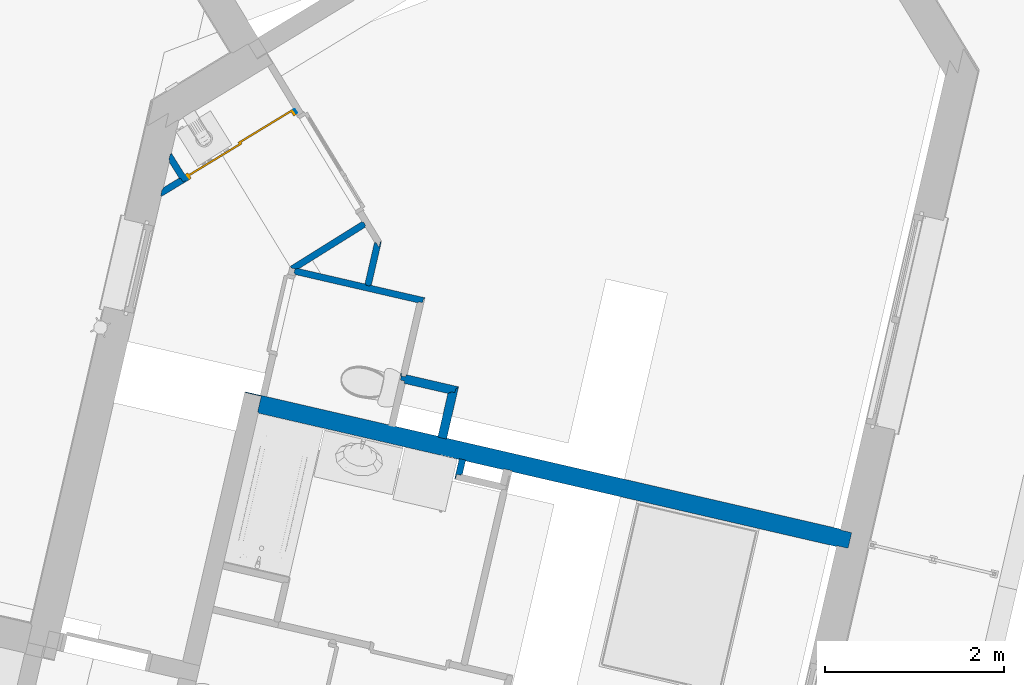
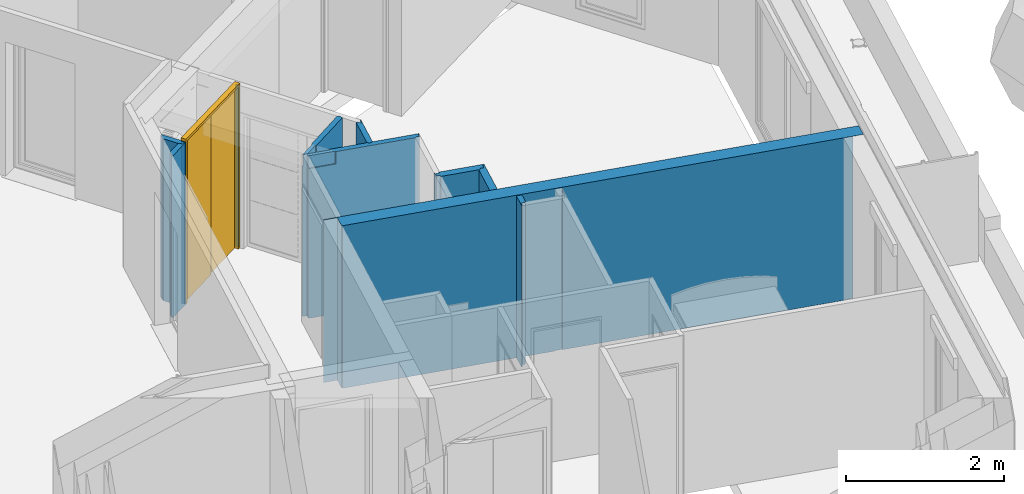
# One storey, part 61 of 119: 10 walls, 1 door, 1 opening.
"""IFC2X3 building model written with IfcOpenShell, lengths in metres."""

from ifc_helpers import new_model, entity, si_unit, converted_unit, derived_unit, money_unit, direction, frame, origin_with_axes, place, context, subcontext, project, spatial, faceted_brep, material, material_list, type_object, element, fill, save


model = new_model("IFC2X3")

# Units and contexts
model_context = context("Model", 3, precision=1e-05, world=origin_with_axes(), true_north=direction((0.0, 1.0)))
body_context = subcontext(model_context, "Body", "Model", "MODEL_VIEW")
ifc_project = project(units=[si_unit("LENGTHUNIT", "METRE"), si_unit("AREAUNIT", "SQUARE_METRE"), si_unit("VOLUMEUNIT", "CUBIC_METRE"), converted_unit("PLANEANGLEUNIT", "DEGREE", entity("IfcPlaneAngleMeasure", 0.0174532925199), si_unit("PLANEANGLEUNIT", "RADIAN"), dimensions=[0, 0, 0, 0, 0, 0, 0]), si_unit("SOLIDANGLEUNIT", "STERADIAN"), money_unit("EUR"), converted_unit("TIMEUNIT", "Year", entity("IfcTimeMeasure", 31556926.0), si_unit("TIMEUNIT", "SECOND"), dimensions=[0, 0, 1, 0, 0, 0, 0]), si_unit("MASSUNIT", "GRAM", prefix="KILO"), si_unit("THERMODYNAMICTEMPERATUREUNIT", "DEGREE_CELSIUS"), si_unit("LUMINOUSINTENSITYUNIT", "LUMEN"), si_unit("ENERGYUNIT", "JOULE", prefix="MEGA"), derived_unit("THERMALCONDUCTANCEUNIT", [(si_unit("POWERUNIT", "WATT"), 1), (si_unit("LENGTHUNIT", "METRE"), -1), (si_unit("THERMODYNAMICTEMPERATUREUNIT", "KELVIN"), -1)]), derived_unit("SPECIFICHEATCAPACITYUNIT", [(si_unit("ENERGYUNIT", "JOULE"), 1), (si_unit("MASSUNIT", "GRAM", prefix="KILO"), -1), (si_unit("THERMODYNAMICTEMPERATUREUNIT", "KELVIN"), -1)]), derived_unit("MASSDENSITYUNIT", [(si_unit("MASSUNIT", "GRAM", prefix="KILO"), 1), (si_unit("VOLUMEUNIT", "CUBIC_METRE"), -1)])], contexts=[model_context])

# Site, building, storey
site_placement = place(None, origin_with_axes())
site = spatial("IfcSite", under=ifc_project, at=site_placement, Name="Site", CompositionType="ELEMENT")
building_placement = place(site_placement, origin_with_axes())
building = spatial("IfcBuilding", under=site, at=building_placement, Name="Bâtiment", CompositionType="ELEMENT")
storey_placement = place(building_placement, origin_with_axes())
storey = spatial("IfcBuildingStorey", under=building, at=storey_placement, Name="Rez-de-chaussée", CompositionType="ELEMENT", Elevation=0.0)

# Wall, opening, door
ifc_material_1 = material(Name="Isolation - Laine de roche")
wall_type_1 = type_object("IfcWallType", Name="3 - Cloison 72mm Placostil 74", PredefinedType="USERDEFINED")
wall_1_placement = place(storey_placement, frame((-5.16748450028, 17.5291965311, 0.0), z_axis=(0.0, 0.0, 1.0), x_axis=(-0.854539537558, -0.519386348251, 0.0)))
wall_1 = element("IfcWall", 1, at=wall_1_placement, inside=storey, type_object=wall_type_1, material=ifc_material_1, Name="Cloison Placostil 72/48", ObjectType="PARTITIONING", context=body_context, shape_type="Brep", body=[
    faceted_brep([(1.49178582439, -0.013, 0.0), (1.49178582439, -0.013, 2.5), (1.50402737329, -0.013, 2.5), (1.50402737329, -0.013, 0.0), (1.49178582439, -0.061, 2.5), (1.49178582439, -0.061, 0.0), (1.50462498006, -0.061, 2.5), (1.50462498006, -0.061, 0.0)], [[[0, 1, 2, 3]], [[4, 1, 0, 5]], [[1, 4, 6, 2]], [[3, 2, 6, 7]], [[5, 0, 3, 7]], [[4, 5, 7, 6]]]),
    faceted_brep([(0.0740000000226, -0.061, 2.5), (0.0740000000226, -0.013, 2.5), (0.061000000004, -0.013, 2.5), (0.0610000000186, -0.061, 2.5), (0.0740000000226, -0.013, 0.0), (0.0740000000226, -0.061, 0.0), (0.061000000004, -0.013, 0.0), (0.0610000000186, -0.061, 0.0)], [[[0, 1, 2, 3]], [[4, 1, 0, 5]], [[1, 4, 6, 2]], [[3, 2, 6, 7]], [[5, 0, 3, 7]], [[4, 5, 7, 6]]]),
])
opening_placement = place(wall_1_placement, frame((0.782892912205, 0.0, 0.0), z_axis=(0.0, 0.0, 1.0), x_axis=(1.0, 0.0, 0.0)))
opening = element("IfcOpeningElement", 2, at=opening_placement, cuts=wall_1, Name="Por-002", context=body_context, shape_type="Brep", body=[
    faceted_brep([(-0.708892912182, 0.074, 0.0), (0.708892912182, 0.074, 0.0), (0.708892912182, -0.074, 0.0), (-0.708892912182, -0.074, 0.0), (-0.708892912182, 0.074, 2.54), (0.708892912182, 0.074, 2.54), (0.708892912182, -0.074, 2.54), (-0.708892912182, -0.074, 2.54)], [[[0, 1, 2, 3]], [[0, 4, 5, 1]], [[1, 5, 6, 2]], [[3, 2, 6, 7]], [[4, 0, 3, 7]], [[5, 4, 7, 6]]]),
])
door_style = type_object("IfcDoorStyle", Name="Porte int générique 2019", ConstructionType="NOTDEFINED", OperationType="USERDEFINED", ParameterTakesPrecedence=False, Sizeable=False)
door_placement = place(opening_placement, frame((0.668892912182, 0.0, 0.0), z_axis=(0.0, 0.0, 1.0), x_axis=(-1.0, 0.0, 0.0)))
door = element("IfcDoor", 3, at=door_placement, inside=storey, type_object=door_style, Name="Por-002", ObjectType="DOOR", OverallHeight=2.5, OverallWidth=1.33779, context=body_context, shape_type="Brep", body=[
    faceted_brep([(1.37778582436, 0.074, 0.0), (1.33778582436, 0.074, 0.0), (1.33778582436, 0.074, 2.5), (0.0, 0.074, 2.5), (0.0, 0.074, 0.0), (-0.04, 0.074, 0.0), (-0.04, 0.074, 2.54), (1.37778582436, 0.074, 2.54), (1.37778582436, 0.0, 0.0), (1.33778582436, 0.0, 0.0), (1.33778582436, 0.0, 2.5), (0.0, 0.0, 2.5), (0.0, 0.0, 0.0), (-0.04, 0.0, 0.0), (-0.04, 0.0, 2.54), (1.37778582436, 0.0, 2.54)], [[[0, 1, 2, 3, 4, 5, 6, 7]], [[0, 8, 9, 1]], [[1, 9, 10, 2]], [[2, 10, 11, 3]], [[3, 11, 12, 4]], [[5, 4, 12, 13]], [[14, 6, 5, 13]], [[15, 7, 6, 14]], [[8, 0, 7, 15]], [[9, 8, 15, 14, 13, 12, 11, 10]]]),
    faceted_brep([(1.33778582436, 0.074, 0.0), (1.33778582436, 0.054, 0.0), (0.653892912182, 0.054, 0.0), (0.653892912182, 0.074, 0.0), (1.33778582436, 0.074, 2.5), (1.33778582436, 0.054, 2.5), (0.653892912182, 0.054, 2.5), (0.653892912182, 0.074, 2.5)], [[[0, 1, 2, 3]], [[4, 5, 1, 0]], [[1, 5, 6, 2]], [[3, 2, 6, 7]], [[0, 3, 7, 4]], [[7, 6, 5, 4]]]),
    faceted_brep([(0.683892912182, 0.054, 0.0), (0.683892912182, 0.034, 0.0), (0.0, 0.034, 0.0), (0.0, 0.054, 0.0), (0.683892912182, 0.054, 2.5), (0.683892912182, 0.034, 2.5), (0.0, 0.034, 2.5), (0.0, 0.054, 2.5)], [[[0, 1, 2, 3]], [[4, 5, 1, 0]], [[1, 5, 6, 2]], [[3, 2, 6, 7]], [[0, 3, 7, 4]], [[7, 6, 5, 4]]]),
])
fill(opening, door)

# Walls
ifc_material_2 = material(Name="Finition int - Plaque de plâtre")
ifc_material_list_1 = material_list([ifc_material_2, ifc_material_1, ifc_material_2])
wall_2_placement = place(storey_placement, frame((-5.30738546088, 15.7908144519, 0.0), z_axis=(0.0, 0.0, 1.0), x_axis=(0.974387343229, -0.224876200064, 0.0)))
element("IfcWall", 4, at=wall_2_placement, inside=storey, type_object=wall_type_1, material=ifc_material_list_1, Name="Cloison Placostil 72/48", ObjectType="PARTITIONING", context=body_context, shape_type="Brep", body=[
    faceted_brep([(0.012999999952, 0.0, 2.31), (0.0183847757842, 0.0, 2.31), (0.0183847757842, 0.0, 0.0), (0.012999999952, 0.0, 0.0), (0.0129999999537, -0.00538477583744, 2.31), (0.0129999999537, -0.00538477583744, 0.0)], [[[0, 1, 2, 3]], [[4, 1, 0]], [[1, 4, 5, 2]], [[3, 2, 5]], [[4, 0, 3, 5]]]),
    faceted_brep([(0.354379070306, 0.0, 2.5), (0.367455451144, -0.013, 2.5), (0.872738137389, -0.013, 2.5), (0.872738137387, 0.0, 2.5), (0.367455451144, -0.013, 2.31), (0.354379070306, 0.0, 2.31), (0.0732670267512, -0.013, 2.31), (0.0732670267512, -0.013, 0.0), (0.872738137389, -0.013, 0.0), (0.872738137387, 0.0, 0.0), (0.0862670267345, 0.0, 0.0), (0.0862670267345, 0.0, 2.31)], [[[0, 1, 2, 3]], [[4, 1, 0, 5]], [[4, 6, 7, 8, 2, 1]], [[9, 3, 2, 8]], [[5, 0, 3, 9, 10, 11]], [[6, 4, 5, 11]], [[6, 11, 10, 7]], [[8, 7, 10, 9]]]),
    faceted_brep([(1.54800000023, -0.013, 2.5), (1.54800000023, 0.0, 2.5), (0.920738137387, 0.0, 2.5), (0.920738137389, -0.013, 2.5), (1.54800000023, -0.013, 0.0), (1.54800000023, 0.0, 0.0), (0.920738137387, 0.0, 0.0), (0.920738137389, -0.013, 0.0)], [[[0, 1, 2, 3]], [[1, 0, 4, 5]], [[1, 5, 6, 2]], [[7, 3, 2, 6]], [[4, 0, 3, 7]], [[5, 4, 7, 6]]]),
    faceted_brep([(0.0609999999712, -0.061, 2.5), (1.53500000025, -0.061, 2.5), (1.53500000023, -0.013, 2.5), (0.0609999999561, -0.013, 2.5), (0.0609999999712, -0.061, 0.0), (1.53500000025, -0.061, 0.0), (1.53500000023, -0.013, 0.0), (0.0609999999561, -0.013, 0.0)], [[[0, 1, 2, 3]], [[4, 5, 1, 0]], [[6, 2, 1, 5]], [[3, 2, 6, 7]], [[7, 4, 0, 3]], [[7, 6, 5, 4]]]),
    faceted_brep([(0.415737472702, -0.061, 2.5), (0.428813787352, -0.0739999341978, 2.5), (1.48700000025, -0.074, 2.5), (1.48700000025, -0.061, 2.5), (0.428813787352, -0.0739999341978, 2.31), (0.415737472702, -0.061, 2.31), (0.0740000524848, -0.0739999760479, 2.31), (0.0739999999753, -0.074, 0.0), (1.48700000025, -0.074, 0.0), (1.48700000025, -0.061, 0.0), (0.0739999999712, -0.061, 0.0), (0.0739999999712, -0.061, 2.31)], [[[0, 1, 2, 3]], [[4, 1, 0, 5]], [[4, 6, 7, 8, 2, 1]], [[3, 2, 8, 9]], [[5, 0, 3, 9, 10, 11]], [[6, 4, 5, 11]], [[6, 11, 10, 7]], [[9, 8, 7, 10]]]),
])
wall_3_placement = place(storey_placement, frame((-4.44027920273, 16.3327352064, 0.0), z_axis=(0.0, 0.0, 1.0), x_axis=(-0.848007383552, -0.529984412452, 0.0)))
element("IfcWall", 5, at=wall_3_placement, inside=storey, type_object=wall_type_1, material=ifc_material_list_1, Name="Cloison Placostil 72/48", ObjectType="PARTITIONING", context=body_context, shape_type="Brep", body=[
    faceted_brep([(0.77249353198, 0.061, 2.5), (0.772455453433, 0.074, 2.5), (0.0749270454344, 0.074, 2.5), (0.0747651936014, 0.061, 2.5), (0.772455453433, 0.074, 2.31), (0.77249353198, 0.061, 2.31), (0.948522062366, 0.074, 2.31), (0.948522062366, 0.074, 0.0), (0.0749270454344, 0.074, 0.0), (0.0747651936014, 0.061, 0.0), (0.96152206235, 0.061, 0.0), (0.96152206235, 0.061, 2.31)], [[[0, 1, 2, 3]], [[4, 1, 0, 5]], [[4, 6, 7, 8, 2, 1]], [[8, 9, 3, 2]], [[5, 0, 3, 9, 10, 11]], [[6, 4, 5, 11]], [[6, 11, 10, 7]], [[8, 7, 10, 9]]]),
    faceted_brep([(1.0171372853, 0.013, 2.5), (1.02252206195, 0.0183847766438, 2.5), (0.988580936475, 0.0523259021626, 2.5), (0.979906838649, 0.061, 2.5), (0.0617641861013, 0.061, 2.5), (0.0611665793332, 0.013, 2.5), (1.02252206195, 0.0183847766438, 0.0), (1.0171372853, 0.013, 0.0), (0.988580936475, 0.0523259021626, 0.0), (0.979906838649, 0.061, 0.0), (0.0617641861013, 0.061, 0.0), (0.0611665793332, 0.013, 0.0)], [[[0, 1, 2, 3, 4, 5]], [[6, 1, 0, 7]], [[8, 2, 1, 6]], [[8, 9, 3, 2]], [[4, 3, 9, 10]], [[10, 11, 5, 4]], [[11, 7, 0, 5]], [[8, 6, 7, 11, 10, 9]]]),
    faceted_brep([(0.0740057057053, 2.37620767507e-09, 2.31), (0.0740095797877, 0.000311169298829, 2.31), (0.0740095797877, 0.000311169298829, 2.5), (0.0741675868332, 0.013, 2.5), (0.0741675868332, 0.013, 0.0), (0.0740057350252, 2.01116989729e-09, 0.0), (1.02128199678, 3.30093286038e-10, 2.31), (1.02129651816, 0.00122554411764, 2.31), (1.01332967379, 0.00919238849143, 2.31), (1.00952206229, 0.013, 2.31), (0.77263412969, 0.013, 2.31), (0.772663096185, 0.00311085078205, 2.31), (0.772663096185, 0.00311085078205, 2.5), (0.77263412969, 0.013, 2.5), (1.00952206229, 0.013, 0.0), (1.01332967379, 0.00919238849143, 0.0), (1.02252206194, 3.30093286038e-10, 0.0), (1.02252206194, 3.30093286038e-10, 2.5), (1.02128199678, 3.32292415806e-10, 2.5), (1.02129651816, 0.00122554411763, 2.5)], [[[0, 1, 2, 3, 4, 5]], [[1, 0, 6, 7, 8, 9, 10, 11]], [[12, 2, 1, 11]], [[12, 13, 3, 2]], [[10, 9, 14, 4, 3, 13]], [[14, 15, 16, 5, 4]], [[6, 0, 5, 16, 17, 18]], [[18, 19, 7, 6]], [[7, 19, 17, 16, 15, 8]], [[9, 8, 15, 14]], [[10, 13, 12, 11]], [[19, 18, 17]]]),
])
wall_4_placement = place(storey_placement, frame((-4.28354753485, 16.0748666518, 0.0), z_axis=(0.0, 0.0, 1.0), x_axis=(-0.224876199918, -0.974387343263, 0.0)))
element("IfcWall", 6, at=wall_4_placement, inside=storey, type_object=wall_type_1, material=ifc_material_list_1, Name="Cloison Placostil 72/48", ObjectType="PARTITIONING", context=body_context, shape_type="Brep", body=[
    faceted_brep([(0.50701365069, -0.013, 2.5), (0.507013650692, 0.0, 2.5), (0.0186179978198, 0.0, 2.5), (0.005290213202, -0.013, 2.5), (0.50701365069, -0.013, 0.0), (0.507013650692, 0.0, 0.0), (0.0186179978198, 0.0, 0.0), (0.005290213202, -0.013, 0.0)], [[[0, 1, 2, 3]], [[1, 0, 4, 5]], [[1, 5, 6, 2]], [[7, 3, 2, 6]], [[4, 0, 3, 7]], [[5, 4, 7, 6]]]),
    faceted_brep([(0.520013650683, -0.061, 2.5), (0.52001365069, -0.013, 2.5), (0.0740335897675, -0.013, 2.5), (0.0248233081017, -0.061, 2.5), (0.520013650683, -0.061, 0.0), (0.52001365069, -0.013, 0.0), (0.0740335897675, -0.013, 0.0), (0.0248233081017, -0.061, 0.0)], [[[0, 1, 2, 3]], [[1, 0, 4, 5]], [[1, 5, 6, 2]], [[7, 3, 2, 6]], [[4, 0, 3, 7]], [[5, 4, 7, 6]]]),
    faceted_brep([(0.507013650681, -0.074, 2.5), (0.507013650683, -0.061, 2.5), (0.0434413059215, -0.061, 2.5), (0.0301135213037, -0.074, 2.5), (0.507013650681, -0.074, 0.0), (0.507013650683, -0.061, 0.0), (0.0434413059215, -0.061, 0.0), (0.0301135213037, -0.074, 0.0)], [[[0, 1, 2, 3]], [[1, 0, 4, 5]], [[1, 5, 6, 2]], [[7, 3, 2, 6]], [[4, 0, 3, 7]], [[5, 4, 7, 6]]]),
])
ifc_material_3 = material(Name="Finition int - Enduit plâtre")
ifc_material_4 = material(Name="Béton")
ifc_material_list_2 = material_list([ifc_material_3, ifc_material_4, ifc_material_3])
wall_type_2 = type_object("IfcWallType", Name="2 - Murs Béton 18 + Enduit 2 Faces 200", PredefinedType="USERDEFINED")
wall_5_placement = place(storey_placement, frame((-5.85538700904, 14.1992836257, 0.0), z_axis=(0.0, 0.0, 1.0), x_axis=(0.974387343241, -0.224876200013, 0.0)))
element("IfcWall", 7, at=wall_5_placement, inside=storey, type_object=wall_type_2, material=ifc_material_list_2, Name="M_Ext-008", ObjectType="SOLIDWALL", context=body_context, shape_type="Brep", body=[
    faceted_brep([(0.01, 0.2, 2.51), (7.08870104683, 0.2, 2.51), (7.08870104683, 0.2, 2.50955), (6.95670106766, 0.2, 2.50955001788), (6.83670103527, 0.2, 2.50955001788), (6.82670106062, 0.2, 2.50955001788), (6.82670106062, 0.2, 0.207793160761), (6.82670106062, 0.2, 0.176532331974), (6.82670106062, 0.2, 0.169414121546), (6.82670106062, 0.2, 0.160000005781), (6.82670106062, 0.2, 0.133633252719), (6.82670106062, 0.2, 0.0), (0.01, 0.2, 0.0), (7.08870104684, 0.19, 2.51), (0.01, 0.19, 2.51), (7.08870104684, 0.19, 2.50955), (6.95670106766, 0.19, 2.50955001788), (6.83670103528, 0.19, 2.50955001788), (6.82670106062, 0.19, 2.50955001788), (6.82670106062, 0.19, 0.207793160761), (6.82670106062, 0.19, 0.176532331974), (6.82670106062, 0.19, 0.169414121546), (6.82670106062, 0.19, 0.160000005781), (6.82670106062, 0.19, 0.133633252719), (6.82670106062, 0.19, 0.0), (0.01, 0.19, 0.0)], [[[0, 1, 2, 3, 4, 5, 6, 7, 8, 9, 10, 11, 12]], [[13, 1, 0, 14]], [[1, 13, 15, 2]], [[3, 2, 15, 16]], [[4, 3, 16, 17]], [[4, 17, 18, 5]], [[5, 18, 19, 6]], [[19, 20, 7, 6]], [[20, 21, 8, 7]], [[8, 21, 22, 9]], [[9, 22, 23, 10]], [[11, 10, 23, 24]], [[24, 25, 12, 11]], [[14, 0, 12, 25]], [[13, 14, 25, 24, 23, 22, 21, 20, 19, 18, 17, 16, 15]]]),
    faceted_brep([(0.19, 0.19, 2.51), (7.08870104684, 0.19, 2.51), (7.08870104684, 0.19, 2.50955), (6.95670105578, 0.19, 2.50955001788), (6.95670105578, 0.19, 0.207793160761), (6.95670105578, 0.19, 0.176532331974), (6.95670105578, 0.19, 0.169414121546), (6.95670105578, 0.19, 0.160000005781), (6.95670105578, 0.19, 0.133633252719), (6.95670105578, 0.19, 0.0), (0.19, 0.19, 0.0), (7.08870104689, 0.01, 2.51), (0.19, 0.01, 2.51), (7.08870104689, 0.01, 2.50955), (6.95670105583, 0.01, 2.50955001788), (6.95670105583, 0.01, 0.207793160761), (6.95670105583, 0.01, 0.176532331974), (6.95670105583, 0.01, 0.169414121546), (6.95670105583, 0.01, 0.160000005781), (6.95670105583, 0.01, 0.133633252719), (6.95670105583, 0.01, 0.0), (0.19, 0.01, 0.0)], [[[0, 1, 2, 3, 4, 5, 6, 7, 8, 9, 10]], [[11, 1, 0, 12]], [[1, 11, 13, 2]], [[3, 2, 13, 14]], [[3, 14, 15, 4]], [[15, 16, 5, 4]], [[6, 5, 16, 17]], [[6, 17, 18, 7]], [[19, 8, 7, 18]], [[9, 8, 19, 20]], [[10, 9, 20, 21]], [[12, 0, 10, 21]], [[11, 12, 21, 20, 19, 18, 17, 16, 15, 14, 13]]]),
    faceted_brep([(0.2, 0.01, 2.51), (7.08870104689, 0.01, 2.51), (7.08870104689, 0.01, 2.50955), (6.95670106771, 0.01, 2.50955001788), (6.83670103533, 0.01, 2.50955001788), (6.82670106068, 0.01, 2.50955001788), (6.82670106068, 0.01, 0.207793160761), (6.82670106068, 0.01, 0.176532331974), (6.82670106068, 0.01, 0.169414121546), (6.82670106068, 0.01, 0.160000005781), (6.82670106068, 0.01, 0.133633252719), (6.82670106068, 0.01, 0.0), (3.10783986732, 0.01, 0.0), (3.10783986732, 0.01, 2.5), (3.09483986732, 0.01, 2.5), (3.08183986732, 0.01, 2.5), (3.03383986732, 0.01, 2.5), (3.02083986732, 0.01, 2.5), (3.00783986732, 0.01, 2.5), (3.00783986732, 0.01, 0.0), (2.57483986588, 0.01, 0.0), (2.57483986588, 0.01, 2.5), (2.56183986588, 0.01, 2.5), (2.51383986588, 0.01, 2.5), (2.50083986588, 0.01, 2.5), (2.50083986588, 0.01, 0.0), (0.2, 0.01, 0.0), (7.08870104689, 0.0, 2.51), (0.2, 0.0, 2.51), (7.08870104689, 0.0, 2.50955), (6.95670106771, 0.0, 2.50955001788), (6.83670103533, 0.0, 2.50955001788), (6.82670106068, 0.0, 2.50955001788), (6.82670106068, 0.0, 0.207793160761), (6.82670106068, 0.0, 0.176532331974), (6.82670106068, 0.0, 0.169414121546), (6.82670106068, 0.0, 0.160000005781), (6.82670106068, 0.0, 0.133633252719), (6.82670106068, 0.0, 0.0), (3.10783986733, 0.0, 0.0), (3.10783986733, 0.0, 2.5), (3.09483986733, 0.0, 2.5), (3.08183986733, 0.0, 2.5), (3.03383986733, 0.0, 2.5), (3.02083986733, 0.0, 2.5), (3.00783986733, 0.0, 2.5), (3.00783986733, 0.0, 0.0), (2.57483986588, 0.0, 0.0), (2.57483986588, 0.0, 2.5), (2.56183986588, 0.0, 2.5), (2.51383986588, 0.0, 2.5), (2.50083986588, 0.0, 2.5), (2.50083986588, 0.0, 0.0), (0.2, 0.0, 0.0)], [[[0, 1, 2, 3, 4, 5, 6, 7, 8, 9, 10, 11, 12, 13, 14, 15, 16, 17, 18, 19, 20, 21, 22, 23, 24, 25, 26]], [[27, 1, 0, 28]], [[1, 27, 29, 2]], [[3, 2, 29, 30]], [[4, 3, 30, 31]], [[4, 31, 32, 5]], [[5, 32, 33, 6]], [[33, 34, 7, 6]], [[34, 35, 8, 7]], [[8, 35, 36, 9]], [[9, 36, 37, 10]], [[11, 10, 37, 38]], [[12, 11, 38, 39]], [[12, 39, 40, 13]], [[13, 40, 41, 14]], [[41, 42, 15, 14]], [[15, 42, 43, 16]], [[43, 44, 17, 16]], [[45, 18, 17, 44]], [[46, 19, 18, 45]], [[20, 19, 46, 47]], [[20, 47, 48, 21]], [[21, 48, 49, 22]], [[22, 49, 50, 23]], [[50, 51, 24, 23]], [[51, 52, 25, 24]], [[53, 26, 25, 52]], [[28, 0, 26, 53]], [[27, 28, 53, 52, 51, 50, 49, 48, 47, 46, 45, 44, 43, 42, 41, 40, 39, 38, 37, 36, 35, 34, 33, 32, 31, 30, 29]]]),
])
wall_type_3 = type_object("IfcWallType", Name="3 - Cloison Gaine Technique 72mm 74", PredefinedType="USERDEFINED")
wall_6_placement = place(storey_placement, frame((-6.4414871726, 16.7548618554, 0.0), z_axis=(0.0, 0.0, 1.0), x_axis=(-0.529984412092, 0.848007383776, 0.0)))
element("IfcWall", 8, at=wall_6_placement, inside=storey, type_object=wall_type_3, material=ifc_material_list_1, Name="Cloison Placostil 72/48", ObjectType="PARTITIONING", context=body_context, shape_type="Brep", body=[
    faceted_brep([(0.296671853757, 0.061, 0.0), (0.296671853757, 0.061, 2.5), (0.061764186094, 0.061, 2.5), (0.061764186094, 0.061, 0.0), (0.283671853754, 0.074, 0.0), (0.283671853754, 0.074, 2.5), (0.0619260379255, 0.074, 2.5), (0.0619260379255, 0.074, 0.0)], [[[0, 1, 2, 3]], [[4, 5, 1, 0]], [[2, 1, 5, 6]], [[6, 7, 3, 2]], [[7, 4, 0, 3]], [[6, 5, 4, 7]]]),
    faceted_brep([(0.0131628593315, 0.013, 0.0), (0.358813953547, 0.013, 0.0), (0.358813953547, 0.013, 2.5), (0.0131628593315, 0.013, 2.5), (0.013760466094, 0.061, 0.0), (0.310813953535, 0.061, 0.0), (0.310813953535, 0.061, 2.5), (0.013760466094, 0.061, 2.5)], [[[0, 1, 2, 3]], [[4, 5, 1, 0]], [[1, 5, 6, 2]], [[7, 3, 2, 6]], [[4, 0, 3, 7]], [[4, 7, 6, 5]]]),
    faceted_brep([(0.061006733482, 0.000161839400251, 0.0), (0.061006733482, 0.000161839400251, 2.5), (0.0611665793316, 0.013, 2.5), (0.0611665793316, 0.013, 0.0), (0.0740057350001, 0.0, 2.5), (0.0740057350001, 0.0, 0.0), (0.357671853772, 0.0, 2.5), (0.344671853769, 0.013, 2.5), (0.344671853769, 0.013, 0.0), (0.357671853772, 0.0, 0.0)], [[[0, 1, 2, 3]], [[4, 1, 0, 5]], [[1, 4, 6, 7, 2]], [[7, 8, 3, 2]], [[5, 0, 3, 8, 9]], [[4, 5, 9, 6]], [[6, 9, 8, 7]]]),
    faceted_brep([(1.14874357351e-05, 0.000921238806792, 0.0), (1.14874357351e-05, 0.000921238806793, 2.5), (0.0001618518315, 0.013, 2.5), (0.0001618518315, 0.013, 0.0), (0.0130104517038, 0.000759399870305, 2.5), (0.0130104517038, 0.000759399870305, 0.0), (0.0131628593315, 0.013, 2.5), (0.0131628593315, 0.013, 0.0)], [[[0, 1, 2, 3]], [[4, 1, 0, 5]], [[1, 4, 6, 2]], [[3, 2, 6, 7]], [[5, 0, 3, 7]], [[4, 5, 7, 6]]]),
])
wall_7_placement = place(storey_placement, frame((-6.4414871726, 16.7548618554, 0.0), z_axis=(0.0, 0.0, 1.0), x_axis=(-0.854539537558, -0.519386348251, 0.0)))
element("IfcWall", 9, at=wall_7_placement, inside=storey, type_object=wall_type_3, material=ifc_material_list_1, Name="Cloison Placostil 72/48", ObjectType="PARTITIONING", context=body_context, shape_type="Brep", body=[
    faceted_brep([(0.340620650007, -0.013, 0.0), (0.340620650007, -0.013, 2.5), (0.0131628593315, -0.013, 2.5), (0.0131628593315, -0.013, 0.0), (0.353300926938, 0.0, 0.0), (0.353300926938, 0.0, 2.5), (0.0130010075, 0.0, 2.5), (0.0130010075, 0.0, 0.0)], [[[0, 1, 2, 3]], [[4, 5, 1, 0]], [[2, 1, 5, 6]], [[6, 7, 3, 2]], [[7, 4, 0, 3]], [[6, 5, 4, 7]]]),
    faceted_brep([(0.307770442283, -0.061, 0.0), (0.307770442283, -0.061, 2.5), (0.061764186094, -0.061, 2.5), (0.061764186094, -0.061, 0.0), (0.354589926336, -0.013, 0.0), (0.354589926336, -0.013, 2.5), (0.0611665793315, -0.013, 2.5), (0.0611665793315, -0.013, 0.0)], [[[0, 1, 2, 3]], [[4, 5, 1, 0]], [[2, 1, 5, 6]], [[3, 2, 6, 7]], [[4, 0, 3, 7]], [[6, 5, 4, 7]]]),
    faceted_brep([(0.281120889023, -0.074, 0.0), (0.281120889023, -0.074, 2.5), (0.0749270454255, -0.074, 2.5), (0.0749270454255, -0.074, 0.0), (0.293801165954, -0.061, 0.0), (0.293801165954, -0.061, 2.5), (0.074765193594, -0.061, 2.5), (0.074765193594, -0.061, 0.0)], [[[0, 1, 2, 3]], [[4, 5, 1, 0]], [[2, 1, 5, 6]], [[6, 7, 3, 2]], [[7, 4, 0, 3]], [[6, 5, 4, 7]]]),
])
wall_8_placement = place(storey_placement, frame((-3.47009694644, 13.4137695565, 0.0), z_axis=(0.0, 0.0, 1.0), x_axis=(0.22487620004, 0.974387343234, 0.0)))
element("IfcWall", 10, at=wall_8_placement, inside=storey, type_object=wall_type_3, material=ifc_material_list_1, Name="Cloison Placostil 72/48", ObjectType="PARTITIONING", context=body_context, shape_type="Brep", body=[
    faceted_brep([(0.239000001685, -0.013, 2.5), (0.239000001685, 0.0, 2.5), (0.013, 0.0, 2.5), (0.0130000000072, -0.013, 2.5), (0.239000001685, -0.013, 0.0), (0.239000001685, 0.0, 0.0), (0.013, 0.0, 0.0), (0.0130000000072, -0.013, 0.0)], [[[0, 1, 2, 3]], [[1, 0, 4, 5]], [[1, 5, 6, 2]], [[7, 3, 2, 6]], [[4, 0, 3, 7]], [[5, 4, 7, 6]]]),
    faceted_brep([(0.239000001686, -0.061, 2.5), (0.239000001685, -0.013, 2.5), (0.0610000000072, -0.013, 2.5), (0.0610000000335, -0.061, 2.5), (0.239000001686, -0.061, 0.0), (0.239000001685, -0.013, 0.0), (0.0610000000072, -0.013, 0.0), (0.0610000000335, -0.061, 0.0)], [[[0, 1, 2, 3]], [[1, 0, 4, 5]], [[1, 5, 6, 2]], [[7, 3, 2, 6]], [[4, 0, 3, 7]], [[5, 4, 7, 6]]]),
    faceted_brep([(0.239000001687, -0.074, 2.5), (0.239000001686, -0.061, 2.5), (0.0740000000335, -0.061, 2.5), (0.0740000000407, -0.074, 2.5), (0.239000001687, -0.074, 0.0), (0.239000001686, -0.061, 0.0), (0.0740000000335, -0.061, 0.0), (0.0740000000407, -0.074, 0.0)], [[[0, 1, 2, 3]], [[1, 0, 4, 5]], [[1, 5, 6, 2]], [[7, 3, 2, 6]], [[4, 0, 3, 7]], [[5, 4, 7, 6]]]),
])
ifc_material_list_3 = material_list([ifc_material_2, ifc_material_2, ifc_material_1, ifc_material_2, ifc_material_2])
wall_type_4 = type_object("IfcWallType", Name="3 - Cloison Gaine Technique 98mm 100", PredefinedType="USERDEFINED")
wall_9_placement = place(storey_placement, frame((-3.99793094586, 14.5808860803, 0.0), z_axis=(0.0, 0.0, 1.0), x_axis=(0.974387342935, -0.224876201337, 0.0)))
element("IfcWall", 11, at=wall_9_placement, inside=storey, type_object=wall_type_4, material=ifc_material_list_3, Name="Cloison 98 isolée", ObjectType="PARTITIONING", context=body_context, shape_type="Brep", body=[
    faceted_brep([(-0.0739999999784, -0.013, 2.5), (-0.060999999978, -0.013, 2.5), (-0.0609999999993, 0.0, 2.5), (-0.074, 0.0, 2.5), (-0.0739999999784, -0.013, 0.0), (-0.060999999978, -0.013, 0.0), (-0.0609999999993, 0.0, 0.0), (-0.074, 0.0, 0.0)], [[[0, 1, 2, 3]], [[4, 5, 1, 0]], [[5, 6, 2, 1]], [[3, 2, 6, 7]], [[7, 4, 0, 3]], [[7, 6, 5, 4]]]),
    faceted_brep([(0.589504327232, 0.0, 0.0), (-0.012999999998, 0.0, 0.0), (-0.012999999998, 0.0, 2.5), (0.589504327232, 0.0, 2.5), (0.589504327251, -0.013, 0.0), (-0.0129999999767, -0.013, 0.0), (-0.0129999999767, -0.013, 2.5), (0.589504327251, -0.013, 2.5)], [[[0, 1, 2, 3]], [[4, 5, 1, 0]], [[5, 6, 2, 1]], [[3, 2, 6, 7]], [[0, 3, 7, 4]], [[7, 6, 5, 4]]]),
    faceted_brep([(-0.0739999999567, -0.026, 2.5), (-0.0609999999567, -0.026, 2.5), (-0.060999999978, -0.013, 2.5), (-0.0739999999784, -0.013, 2.5), (-0.0739999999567, -0.026, 0.0), (-0.0609999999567, -0.026, 0.0), (-0.060999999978, -0.013, 0.0), (-0.0739999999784, -0.013, 0.0)], [[[0, 1, 2, 3]], [[4, 5, 1, 0]], [[5, 6, 2, 1]], [[3, 2, 6, 7]], [[7, 4, 0, 3]], [[7, 6, 5, 4]]]),
    faceted_brep([(0.576504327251, -0.013, 0.0), (-0.0129999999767, -0.013, 0.0), (-0.0129999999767, -0.013, 2.5), (0.576504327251, -0.013, 2.5), (0.576504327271, -0.026, 0.0), (-0.0129999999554, -0.026, 0.0), (-0.0129999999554, -0.026, 2.5), (0.576504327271, -0.026, 2.5)], [[[0, 1, 2, 3]], [[4, 5, 1, 0]], [[5, 6, 2, 1]], [[3, 2, 6, 7]], [[0, 3, 7, 4]], [[7, 6, 5, 4]]]),
    faceted_brep([(-0.0609999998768, -0.074, 2.5), (0.563504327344, -0.074, 2.5), (0.563504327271, -0.026, 2.5), (-0.0609999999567, -0.026, 2.5), (-0.0609999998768, -0.074, 0.0), (0.563504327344, -0.074, 0.0), (0.563504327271, -0.026, 0.0), (-0.0609999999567, -0.026, 0.0)], [[[0, 1, 2, 3]], [[4, 5, 1, 0]], [[6, 2, 1, 5]], [[3, 2, 6, 7]], [[7, 4, 0, 3]], [[7, 6, 5, 4]]]),
    faceted_brep([(0.515504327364, -0.087, 2.5), (0.515504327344, -0.074, 2.5), (-0.0129999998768, -0.074, 2.5), (-0.0129999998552, -0.087, 2.5), (0.515504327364, -0.087, 0.0), (0.515504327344, -0.074, 0.0), (-0.0129999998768, -0.074, 0.0), (-0.0129999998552, -0.087, 0.0)], [[[0, 1, 2, 3]], [[1, 0, 4, 5]], [[1, 5, 6, 2]], [[7, 3, 2, 6]], [[4, 0, 3, 7]], [[5, 4, 7, 6]]]),
    faceted_brep([(0.502504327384, -0.1, 2.5), (0.502504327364, -0.087, 2.5), (-0.0129999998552, -0.087, 2.5), (-0.0129999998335, -0.1, 2.5), (0.502504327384, -0.1, 0.0), (0.502504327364, -0.087, 0.0), (-0.0129999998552, -0.087, 0.0), (-0.0129999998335, -0.1, 0.0)], [[[0, 1, 2, 3]], [[1, 0, 4, 5]], [[1, 5, 6, 2]], [[7, 3, 2, 6]], [[4, 0, 3, 7]], [[5, 4, 7, 6]]]),
])
wall_10_placement = place(storey_placement, frame((-3.4235253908, 14.4483205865, 0.0), z_axis=(0.0, 0.0, 1.0), x_axis=(-0.224876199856, -0.974387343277, 0.0)))
element("IfcWall", 12, at=wall_10_placement, inside=storey, type_object=wall_type_4, material=ifc_material_list_3, Name="Cloison 98 isolée", ObjectType="PARTITIONING", context=body_context, shape_type="Brep", body=[
    faceted_brep([(0.0129999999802, -0.013, 2.5), (0.599999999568, -0.013, 2.5), (0.599999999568, 0.0, 2.5), (0.013, 0.0, 2.5), (0.0129999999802, -0.013, 0.0), (0.599999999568, -0.013, 0.0), (0.599999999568, 0.0, 0.0), (0.013, 0.0, 0.0)], [[[0, 1, 2, 3]], [[4, 5, 1, 0]], [[2, 1, 5, 6]], [[3, 2, 6, 7]], [[4, 0, 3, 7]], [[7, 6, 5, 4]]]),
    faceted_brep([(0.0259999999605, -0.026, 2.5), (0.599999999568, -0.026, 2.5), (0.599999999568, -0.013, 2.5), (0.0259999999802, -0.013, 2.5), (0.0259999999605, -0.026, 0.0), (0.599999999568, -0.026, 0.0), (0.599999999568, -0.013, 0.0), (0.0259999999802, -0.013, 0.0)], [[[0, 1, 2, 3]], [[4, 5, 1, 0]], [[2, 1, 5, 6]], [[3, 2, 6, 7]], [[4, 0, 3, 7]], [[7, 6, 5, 4]]]),
    faceted_brep([(0.0739999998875, -0.074, 2.5), (0.599999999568, -0.074, 2.5), (0.599999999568, -0.026, 2.5), (0.0739999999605, -0.026, 2.5), (0.0739999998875, -0.074, 0.0), (0.599999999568, -0.074, 0.0), (0.599999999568, -0.026, 0.0), (0.0739999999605, -0.026, 0.0)], [[[0, 1, 2, 3]], [[4, 5, 1, 0]], [[2, 1, 5, 6]], [[3, 2, 6, 7]], [[4, 0, 3, 7]], [[7, 6, 5, 4]]]),
    faceted_brep([(0.0869999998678, -0.087, 2.5), (0.599999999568, -0.087, 2.5), (0.599999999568, -0.074, 2.5), (0.0869999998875, -0.074, 2.5), (0.0869999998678, -0.087, 0.0), (0.599999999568, -0.087, 0.0), (0.599999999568, -0.074, 0.0), (0.0869999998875, -0.074, 0.0)], [[[0, 1, 2, 3]], [[4, 5, 1, 0]], [[2, 1, 5, 6]], [[3, 2, 6, 7]], [[4, 0, 3, 7]], [[7, 6, 5, 4]]]),
    faceted_brep([(0.099999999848, -0.1, 2.5), (0.599999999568, -0.1, 2.5), (0.599999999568, -0.087, 2.5), (0.0999999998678, -0.087, 2.5), (0.099999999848, -0.1, 0.0), (0.599999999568, -0.1, 0.0), (0.599999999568, -0.087, 0.0), (0.0999999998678, -0.087, 0.0)], [[[0, 1, 2, 3]], [[4, 5, 1, 0]], [[2, 1, 5, 6]], [[3, 2, 6, 7]], [[4, 0, 3, 7]], [[7, 6, 5, 4]]]),
])

save(model, "model.ifc")
